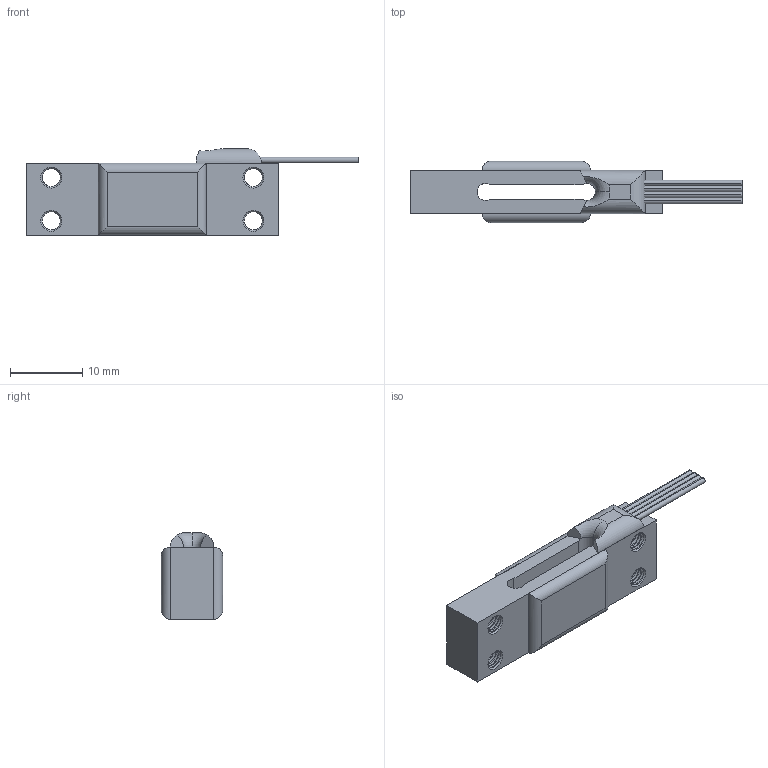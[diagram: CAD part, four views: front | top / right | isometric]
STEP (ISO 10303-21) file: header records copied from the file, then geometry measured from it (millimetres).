
FILE_DESCRIPTION (( 'STEP AP203' ), '1' );
FILE_NAME ('LCE04.STEP', '2024-11-14T08:08:57', ( '' ), ( '' ), 'SwSTEP 2.0', 'SolidWorks 2019', '' );
FILE_SCHEMA (( 'CONFIG_CONTROL_DESIGN' ));
Length unit declared in the file: millimetre
Products named in the file (1): LCE04
Bounding box: 46 x 8.5 x 12 mm (x, y, z)
Volume: 2076.7 mm3; surface area: 2765.1 mm2
Topology: 8 solids, 8 shells, 180 faces, 472 edges, 308 vertices
Faces by surface type: cylinder 118, plane 28, cone 20, bspline 12, torus 2
Entity records: 13352 total; most frequent: CARTESIAN_POINT 9483, ORIENTED_EDGE 944, DIRECTION 641, EDGE_CURVE 472, VERTEX_POINT 308, AXIS2_PLACEMENT_3D 232, EDGE_LOOP 190, FACE_OUTER_BOUND 180
